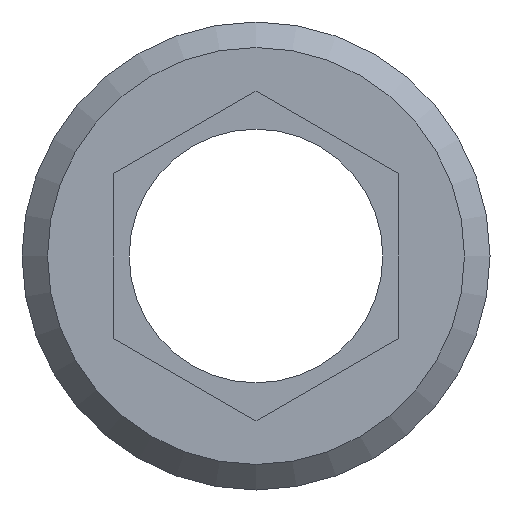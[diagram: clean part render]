
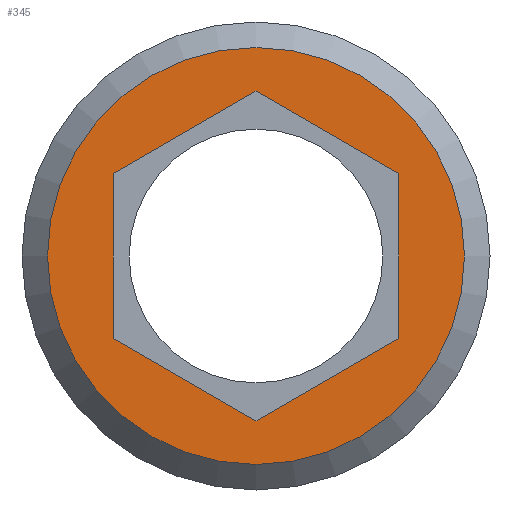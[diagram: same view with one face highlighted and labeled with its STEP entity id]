
A CAD part, front view. The second image highlights one B-rep face of the part: STEP entity #345.
In plain terms, the highlighted planar face has unit normal (0, -1, 0).
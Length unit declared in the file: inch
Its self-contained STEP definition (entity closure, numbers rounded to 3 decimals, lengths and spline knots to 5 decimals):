
#19=FACE_BOUND('',#87,.T.);
#39=CIRCLE('',#390,0.365);
#65=FACE_OUTER_BOUND('',#86,.T.);
#86=EDGE_LOOP('',(#285));
#87=EDGE_LOOP('',(#286,#287,#288,#289,#290,#291));
#95=LINE('',#524,#119);
#99=LINE('',#532,#123);
#102=LINE('',#538,#126);
#105=LINE('',#544,#129);
#108=LINE('',#550,#132);
#111=LINE('',#555,#135);
#119=VECTOR('',#412,0.3937);
#123=VECTOR('',#418,0.3937);
#126=VECTOR('',#423,0.3937);
#129=VECTOR('',#428,0.3937);
#132=VECTOR('',#433,0.3937);
#135=VECTOR('',#438,0.3937);
#143=VERTEX_POINT('',#522);
#144=VERTEX_POINT('',#523);
#147=VERTEX_POINT('',#531);
#149=VERTEX_POINT('',#537);
#151=VERTEX_POINT('',#543);
#153=VERTEX_POINT('',#549);
#166=VERTEX_POINT('',#588);
#177=EDGE_CURVE('',#143,#144,#95,.T.);
#181=EDGE_CURVE('',#147,#143,#99,.T.);
#184=EDGE_CURVE('',#149,#147,#102,.T.);
#187=EDGE_CURVE('',#151,#149,#105,.T.);
#190=EDGE_CURVE('',#153,#151,#108,.T.);
#193=EDGE_CURVE('',#144,#153,#111,.T.);
#209=EDGE_CURVE('',#166,#166,#39,.T.);
#285=ORIENTED_EDGE('',*,*,#209,.F.);
#286=ORIENTED_EDGE('',*,*,#190,.T.);
#287=ORIENTED_EDGE('',*,*,#187,.T.);
#288=ORIENTED_EDGE('',*,*,#184,.T.);
#289=ORIENTED_EDGE('',*,*,#181,.T.);
#290=ORIENTED_EDGE('',*,*,#177,.T.);
#291=ORIENTED_EDGE('',*,*,#193,.T.);
#329=PLANE('',#396);
#345=ADVANCED_FACE('',(#65,#19),#329,.T.);
#390=AXIS2_PLACEMENT_3D('',#589,#479,#480);
#396=AXIS2_PLACEMENT_3D('',#601,#493,#494);
#412=DIRECTION('',(-0.866,0.,-0.5));
#418=DIRECTION('',(0.,0.,-1.));
#423=DIRECTION('',(0.866,0.,-0.5));
#428=DIRECTION('',(0.866,0.,0.5));
#433=DIRECTION('',(0.,0.,1.));
#438=DIRECTION('',(-0.866,0.,0.5));
#479=DIRECTION('center_axis',(0.,1.,0.));
#480=DIRECTION('ref_axis',(0.,0.,1.));
#493=DIRECTION('center_axis',(0.,-1.,0.));
#494=DIRECTION('ref_axis',(0.,0.,-1.));
#522=CARTESIAN_POINT('',(0.25,0.,-0.14434));
#523=CARTESIAN_POINT('',(0.,0.,-0.28868));
#524=CARTESIAN_POINT('',(0.13337,0.,-0.21167));
#531=CARTESIAN_POINT('',(0.25,0.,0.14434));
#532=CARTESIAN_POINT('',(0.25,0.,-0.05283));
#537=CARTESIAN_POINT('',(0.,0.,0.28868));
#538=CARTESIAN_POINT('',(0.11663,0.,0.22134));
#543=CARTESIAN_POINT('',(-0.25,0.,0.14434));
#544=CARTESIAN_POINT('',(-0.24163,0.,0.14917));
#549=CARTESIAN_POINT('',(-0.25,0.,-0.14434));
#550=CARTESIAN_POINT('',(-0.25,0.,-0.19717));
#555=CARTESIAN_POINT('',(-0.00837,0.,-0.28384));
#588=CARTESIAN_POINT('',(0.,0.,-0.365));
#589=CARTESIAN_POINT('Origin',(0.,0.,0.));
#601=CARTESIAN_POINT('Origin',(0.,0.,-0.25));
